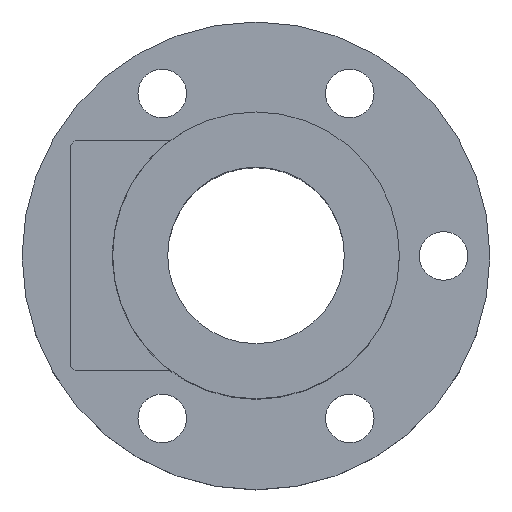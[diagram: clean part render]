
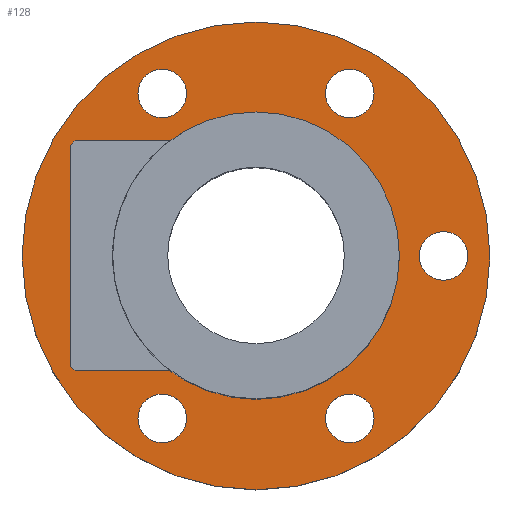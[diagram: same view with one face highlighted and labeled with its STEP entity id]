
A CAD part, top view. The second image highlights one B-rep face of the part: STEP entity #128.
In plain terms, the highlighted planar face has unit normal (0, 0, 1).
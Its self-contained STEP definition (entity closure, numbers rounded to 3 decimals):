
#97=PLANE('',#515);
#112=FACE_OUTER_BOUND('',#251,.T.);
#128=ADVANCED_FACE('',(#203,#204,#205,#112,#206,#207,#208),#97,.T.);
#203=FACE_BOUND('',#248,.T.);
#204=FACE_BOUND('',#249,.T.);
#205=FACE_BOUND('',#250,.T.);
#206=FACE_BOUND('',#252,.T.);
#207=FACE_BOUND('',#253,.T.);
#208=FACE_BOUND('',#254,.T.);
#248=EDGE_LOOP('',(#311));
#249=EDGE_LOOP('',(#312));
#250=EDGE_LOOP('',(#313));
#251=EDGE_LOOP('',(#314));
#252=EDGE_LOOP('',(#315));
#253=EDGE_LOOP('',(#316));
#254=EDGE_LOOP('',(#317));
#311=ORIENTED_EDGE('',*,*,#437,.F.);
#312=ORIENTED_EDGE('',*,*,#438,.F.);
#313=ORIENTED_EDGE('',*,*,#432,.F.);
#314=ORIENTED_EDGE('',*,*,#439,.T.);
#315=ORIENTED_EDGE('',*,*,#440,.F.);
#316=ORIENTED_EDGE('',*,*,#441,.F.);
#317=ORIENTED_EDGE('',*,*,#442,.F.);
#394=VERTEX_POINT('',#694);
#399=VERTEX_POINT('',#705);
#400=VERTEX_POINT('',#707);
#401=VERTEX_POINT('',#709);
#402=VERTEX_POINT('',#711);
#403=VERTEX_POINT('',#713);
#404=VERTEX_POINT('',#715);
#432=EDGE_CURVE('',#394,#394,#476,.T.);
#437=EDGE_CURVE('',#399,#399,#479,.T.);
#438=EDGE_CURVE('',#400,#400,#480,.T.);
#439=EDGE_CURVE('',#401,#401,#481,.T.);
#440=EDGE_CURVE('',#402,#402,#482,.T.);
#441=EDGE_CURVE('',#403,#403,#483,.T.);
#442=EDGE_CURVE('',#404,#404,#484,.T.);
#476=CIRCLE('',#505,32.5);
#479=CIRCLE('',#509,5.5);
#480=CIRCLE('',#510,5.5);
#481=CIRCLE('',#511,53.);
#482=CIRCLE('',#512,5.5);
#483=CIRCLE('',#513,5.5);
#484=CIRCLE('',#514,5.5);
#505=AXIS2_PLACEMENT_3D('',#693,#564,#565);
#509=AXIS2_PLACEMENT_3D('',#704,#574,#575);
#510=AXIS2_PLACEMENT_3D('',#706,#576,#577);
#511=AXIS2_PLACEMENT_3D('',#708,#578,#579);
#512=AXIS2_PLACEMENT_3D('',#710,#580,#581);
#513=AXIS2_PLACEMENT_3D('',#712,#582,#583);
#514=AXIS2_PLACEMENT_3D('',#714,#584,#585);
#515=AXIS2_PLACEMENT_3D('',#716,#586,#587);
#564=DIRECTION('',(0.,0.,1.));
#565=DIRECTION('',(1.,0.,0.));
#574=DIRECTION('',(0.,0.,1.));
#575=DIRECTION('',(-0.5,-0.866,0.));
#576=DIRECTION('',(0.,0.,1.));
#577=DIRECTION('',(0.5,0.866,0.));
#578=DIRECTION('',(0.,0.,1.));
#579=DIRECTION('',(1.,0.,0.));
#580=DIRECTION('',(0.,0.,1.));
#581=DIRECTION('',(1.,0.,0.));
#582=DIRECTION('',(0.,0.,1.));
#583=DIRECTION('',(-1.,0.,0.));
#584=DIRECTION('',(0.,0.,1.));
#585=DIRECTION('',(0.5,-0.866,0.));
#586=DIRECTION('',(0.,0.,1.));
#587=DIRECTION('',(1.,0.,0.));
#693=CARTESIAN_POINT('',(0.,0.,18.));
#694=CARTESIAN_POINT('',(32.5,0.,18.));
#704=CARTESIAN_POINT('',(21.25,-36.806,18.));
#705=CARTESIAN_POINT('',(18.5,-41.569,18.));
#706=CARTESIAN_POINT('',(-21.25,36.806,18.));
#707=CARTESIAN_POINT('',(-18.5,41.569,18.));
#708=CARTESIAN_POINT('',(0.,0.,18.));
#709=CARTESIAN_POINT('',(53.,0.,18.));
#710=CARTESIAN_POINT('',(21.25,36.806,18.));
#711=CARTESIAN_POINT('',(26.75,36.806,18.));
#712=CARTESIAN_POINT('',(-21.25,-36.806,18.));
#713=CARTESIAN_POINT('',(-26.75,-36.806,18.));
#714=CARTESIAN_POINT('',(42.5,0.,18.));
#715=CARTESIAN_POINT('',(45.25,-4.763,18.));
#716=CARTESIAN_POINT('',(0.,0.,18.));
